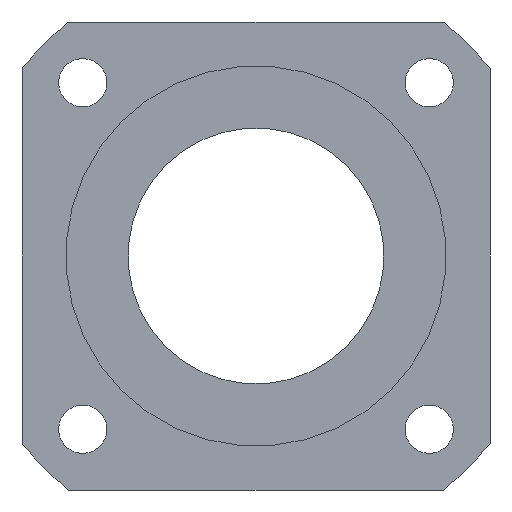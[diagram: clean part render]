
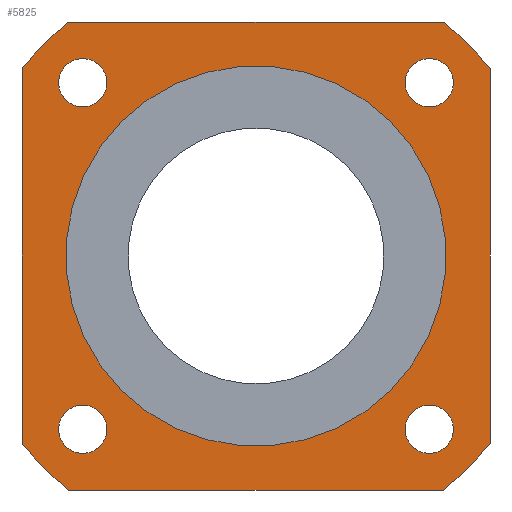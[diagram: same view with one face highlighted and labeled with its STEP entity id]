
A CAD part, left-side view. The second image highlights one B-rep face of the part: STEP entity #5825.
In plain terms, the highlighted planar face has unit normal (-1, 0, 0).
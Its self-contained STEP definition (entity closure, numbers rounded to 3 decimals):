
#108=CIRCLE('',#6178,41.);
#109=CIRCLE('',#6180,41.);
#110=CIRCLE('',#6182,41.);
#120=CIRCLE('',#6197,26.);
#122=CIRCLE('',#6202,41.);
#123=CIRCLE('',#6203,3.3);
#124=CIRCLE('',#6204,3.3);
#125=CIRCLE('',#6205,3.3);
#126=CIRCLE('',#6206,3.3);
#338=LINE('',#9255,#1028);
#339=LINE('',#9256,#1029);
#340=LINE('',#9257,#1030);
#341=LINE('',#9261,#1031);
#1028=VECTOR('',#6759,1000.);
#1029=VECTOR('',#6760,1000.);
#1030=VECTOR('',#6761,1000.);
#1031=VECTOR('',#6764,1000.);
#1800=ORIENTED_EDGE('',*,*,#3482,.T.);
#1801=ORIENTED_EDGE('',*,*,#3465,.F.);
#1802=ORIENTED_EDGE('',*,*,#3483,.T.);
#1803=ORIENTED_EDGE('',*,*,#3468,.F.);
#1804=ORIENTED_EDGE('',*,*,#3484,.T.);
#1805=ORIENTED_EDGE('',*,*,#3485,.F.);
#1806=ORIENTED_EDGE('',*,*,#3486,.T.);
#1807=ORIENTED_EDGE('',*,*,#3463,.F.);
#1808=ORIENTED_EDGE('',*,*,#3487,.T.);
#1809=ORIENTED_EDGE('',*,*,#3488,.T.);
#1810=ORIENTED_EDGE('',*,*,#3489,.T.);
#1811=ORIENTED_EDGE('',*,*,#3490,.T.);
#1812=ORIENTED_EDGE('',*,*,#3480,.T.);
#3463=EDGE_CURVE('',#4306,#4307,#108,.T.);
#3465=EDGE_CURVE('',#4308,#4309,#109,.T.);
#3468=EDGE_CURVE('',#4310,#4311,#110,.T.);
#3480=EDGE_CURVE('',#4321,#4321,#120,.T.);
#3482=EDGE_CURVE('',#4306,#4309,#338,.T.);
#3483=EDGE_CURVE('',#4308,#4311,#339,.T.);
#3484=EDGE_CURVE('',#4310,#4323,#340,.T.);
#3485=EDGE_CURVE('',#4324,#4323,#122,.T.);
#3486=EDGE_CURVE('',#4324,#4307,#341,.T.);
#3487=EDGE_CURVE('',#4325,#4325,#123,.T.);
#3488=EDGE_CURVE('',#4326,#4326,#124,.T.);
#3489=EDGE_CURVE('',#4327,#4327,#125,.T.);
#3490=EDGE_CURVE('',#4328,#4328,#126,.T.);
#4306=VERTEX_POINT('',#9209);
#4307=VERTEX_POINT('',#9211);
#4308=VERTEX_POINT('',#9215);
#4309=VERTEX_POINT('',#9216);
#4310=VERTEX_POINT('',#9221);
#4311=VERTEX_POINT('',#9222);
#4321=VERTEX_POINT('',#9249);
#4323=VERTEX_POINT('',#9258);
#4324=VERTEX_POINT('',#9260);
#4325=VERTEX_POINT('',#9263);
#4326=VERTEX_POINT('',#9265);
#4327=VERTEX_POINT('',#9267);
#4328=VERTEX_POINT('',#9269);
#4794=EDGE_LOOP('',(#1800,#1801,#1802,#1803,#1804,#1805,#1806,#1807));
#4795=EDGE_LOOP('',(#1808));
#4796=EDGE_LOOP('',(#1809));
#4797=EDGE_LOOP('',(#1810));
#4798=EDGE_LOOP('',(#1811));
#4799=EDGE_LOOP('',(#1812));
#5204=FACE_BOUND('',#4794,.T.);
#5205=FACE_BOUND('',#4795,.T.);
#5206=FACE_BOUND('',#4796,.T.);
#5207=FACE_BOUND('',#4797,.T.);
#5208=FACE_BOUND('',#4798,.T.);
#5209=FACE_BOUND('',#4799,.T.);
#5559=PLANE('',#6201);
#5825=ADVANCED_FACE('',(#5204,#5205,#5206,#5207,#5208,#5209),#5559,.F.);
#6178=AXIS2_PLACEMENT_3D('',#9210,#6706,#6707);
#6180=AXIS2_PLACEMENT_3D('',#9214,#6711,#6712);
#6182=AXIS2_PLACEMENT_3D('',#9220,#6717,#6718);
#6197=AXIS2_PLACEMENT_3D('',#9248,#6749,#6750);
#6201=AXIS2_PLACEMENT_3D('',#9254,#6757,#6758);
#6202=AXIS2_PLACEMENT_3D('',#9259,#6762,#6763);
#6203=AXIS2_PLACEMENT_3D('',#9262,#6765,#6766);
#6204=AXIS2_PLACEMENT_3D('',#9264,#6767,#6768);
#6205=AXIS2_PLACEMENT_3D('',#9266,#6769,#6770);
#6206=AXIS2_PLACEMENT_3D('',#9268,#6771,#6772);
#6706=DIRECTION('',(1.,0.,0.));
#6707=DIRECTION('',(0.,0.707,-0.707));
#6711=DIRECTION('',(1.,0.,0.));
#6712=DIRECTION('',(0.,0.707,-0.707));
#6717=DIRECTION('',(1.,0.,0.));
#6718=DIRECTION('',(0.,0.707,-0.707));
#6749=DIRECTION('',(1.,0.,0.));
#6750=DIRECTION('',(0.,0.707,-0.707));
#6757=DIRECTION('',(1.,0.,0.));
#6758=DIRECTION('',(0.,0.707,-0.707));
#6759=DIRECTION('',(0.,1.,0.));
#6760=DIRECTION('',(0.,0.,-1.));
#6761=DIRECTION('',(0.,-1.,0.));
#6762=DIRECTION('',(1.,0.,0.));
#6763=DIRECTION('',(0.,0.707,-0.707));
#6764=DIRECTION('',(0.,0.,1.));
#6765=DIRECTION('',(1.,0.,0.));
#6766=DIRECTION('',(0.,0.707,-0.707));
#6767=DIRECTION('',(1.,0.,0.));
#6768=DIRECTION('',(0.,0.707,-0.707));
#6769=DIRECTION('',(1.,0.,0.));
#6770=DIRECTION('',(0.,0.707,-0.707));
#6771=DIRECTION('',(1.,0.,0.));
#6772=DIRECTION('',(0.,0.707,-0.707));
#9209=CARTESIAN_POINT('',(57.5,-25.632,32.));
#9210=CARTESIAN_POINT('',(57.5,0.,0.));
#9211=CARTESIAN_POINT('',(57.5,-32.,25.632));
#9214=CARTESIAN_POINT('',(57.5,0.,0.));
#9215=CARTESIAN_POINT('',(57.5,32.,25.632));
#9216=CARTESIAN_POINT('',(57.5,25.632,32.));
#9220=CARTESIAN_POINT('',(57.5,0.,0.));
#9221=CARTESIAN_POINT('',(57.5,25.632,-32.));
#9222=CARTESIAN_POINT('',(57.5,32.,-25.632));
#9248=CARTESIAN_POINT('',(57.5,0.,0.));
#9249=CARTESIAN_POINT('',(57.5,18.385,-18.385));
#9254=CARTESIAN_POINT('',(57.5,0.,0.));
#9255=CARTESIAN_POINT('',(57.5,32.,32.));
#9256=CARTESIAN_POINT('',(57.5,32.,-32.));
#9257=CARTESIAN_POINT('',(57.5,-32.,-32.));
#9258=CARTESIAN_POINT('',(57.5,-25.632,-32.));
#9259=CARTESIAN_POINT('',(57.5,0.,0.));
#9260=CARTESIAN_POINT('',(57.5,-32.,-25.632));
#9261=CARTESIAN_POINT('',(57.5,-32.,32.));
#9262=CARTESIAN_POINT('',(57.5,23.688,-23.688));
#9263=CARTESIAN_POINT('',(57.5,26.022,-26.022));
#9264=CARTESIAN_POINT('',(57.5,-23.688,-23.688));
#9265=CARTESIAN_POINT('',(57.5,-21.355,-26.022));
#9266=CARTESIAN_POINT('',(57.5,-23.688,23.688));
#9267=CARTESIAN_POINT('',(57.5,-21.355,21.355));
#9268=CARTESIAN_POINT('',(57.5,23.688,23.688));
#9269=CARTESIAN_POINT('',(57.5,26.022,21.355));
